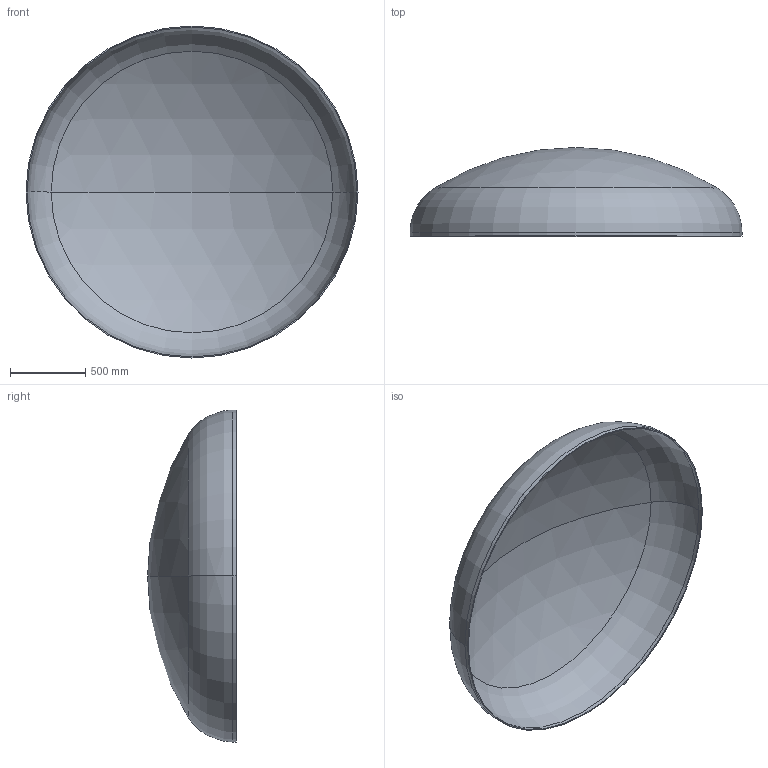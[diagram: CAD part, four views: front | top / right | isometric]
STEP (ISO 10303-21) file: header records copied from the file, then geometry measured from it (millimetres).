
FILE_DESCRIPTION (( 'STEP AP203' ), '1' );
FILE_NAME ('DIN 28013 Korbbogenform_-_Boden DIN 28013 - 2200 x 25 - I - s=7.step', '2016-07-01T14:16:50', ( '' ), ( '' ), 'SwSTEP 2.0', 'SolidWorks 2013', '' );
FILE_SCHEMA (( 'CONFIG_CONTROL_DESIGN' ));
Length unit declared in the file: millimetre
Products named in the file (1): DIN 28013 Korbbogenform_-_Boden DIN 28013 - 2200 x 25 - I - s=7
Bounding box: 2200 x 588.09 x 2200 mm (x, y, z)
Volume: 37932150.7 mm3; surface area: 10886082.2 mm2
Topology: 1 solids, 1 shells, 13 faces, 24 edges, 14 vertices
Faces by surface type: torus 4, cylinder 4, sphere 4, plane 1
Entity records: 407 total; most frequent: DIRECTION 72, CARTESIAN_POINT 52, ORIENTED_EDGE 48, AXIS2_PLACEMENT_3D 34, EDGE_CURVE 24, CIRCLE 20, EDGE_LOOP 14, VERTEX_POINT 14
